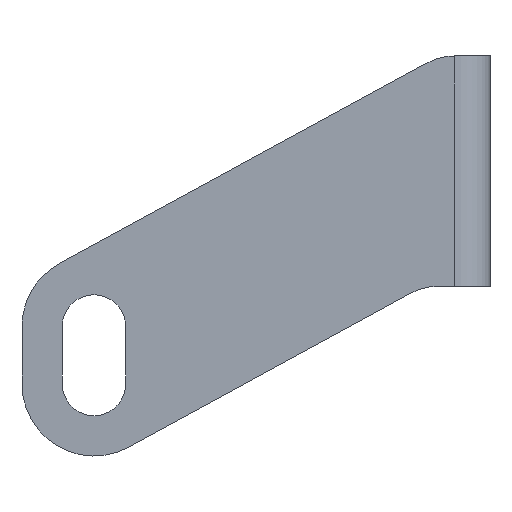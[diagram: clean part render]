
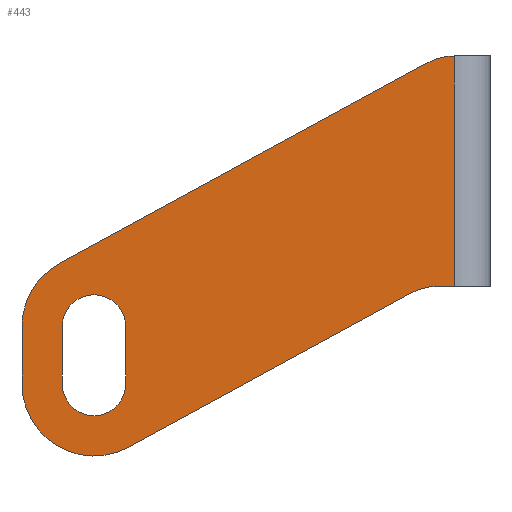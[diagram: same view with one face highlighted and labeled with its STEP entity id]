
A CAD part, front view. The second image highlights one B-rep face of the part: STEP entity #443.
In plain terms, the highlighted planar face has unit normal (0, -1, 0).
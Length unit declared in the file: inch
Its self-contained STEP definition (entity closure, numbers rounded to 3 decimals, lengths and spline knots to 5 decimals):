
#5 = DIRECTION ( 'NONE',  ( 0., 0., 1. ) ) ;
#6 = CARTESIAN_POINT ( 'NONE',  ( -1.72, -0.6875, -0.925 ) ) ;
#14 = VERTEX_POINT ( 'NONE', #626 ) ;
#23 = LINE ( 'NONE', #562, #561 ) ;
#28 = CIRCLE ( 'NONE', #775, 0.1378 ) ;
#30 = DIRECTION ( 'NONE',  ( 0., 0., 1. ) ) ;
#58 = EDGE_CURVE ( 'NONE', #645, #14, #154, .T. ) ;
#64 = CARTESIAN_POINT ( 'NONE',  ( -0.22472, -0.6875, -0.5 ) ) ;
#72 = CARTESIAN_POINT ( 'NONE',  ( -1.72, -0.6875, -0.675 ) ) ;
#78 = VECTOR ( 'NONE', #829, 39.37008 ) ;
#80 = CARTESIAN_POINT ( 'NONE',  ( -0.155, -0.6875, -0.5 ) ) ;
#86 = DIRECTION ( 'NONE',  ( 0., 0., -1. ) ) ;
#104 = EDGE_CURVE ( 'NONE', #334, #371, #127, .T. ) ;
#123 = EDGE_CURVE ( 'NONE', #616, #409, #360, .T. ) ;
#127 = CIRCLE ( 'NONE', #237, 0.25 ) ;
#137 = EDGE_CURVE ( 'NONE', #371, #264, #23, .T. ) ;
#141 = VECTOR ( 'NONE', #880, 39.37008 ) ;
#143 = AXIS2_PLACEMENT_3D ( 'NONE', #181, #392, #447 ) ;
#145 = FACE_BOUND ( 'NONE', #845, .T. ) ;
#154 = CIRCLE ( 'NONE', #859, 0.1378 ) ;
#157 = CARTESIAN_POINT ( 'NONE',  ( -0.22472, -0.6875, -0.75 ) ) ;
#167 = CARTESIAN_POINT ( 'NONE',  ( -1.72, -0.6875, -0.925 ) ) ;
#172 = DIRECTION ( 'NONE',  ( 0., 1., 0. ) ) ;
#181 = CARTESIAN_POINT ( 'NONE',  ( -1.72, -0.6875, -0.675 ) ) ;
#208 = AXIS2_PLACEMENT_3D ( 'NONE', #6, #213, #678 ) ;
#210 = CARTESIAN_POINT ( 'NONE',  ( -1.5822, -0.6875, -0.925 ) ) ;
#213 = DIRECTION ( 'NONE',  ( 0., 1., 0. ) ) ;
#229 = VERTEX_POINT ( 'NONE', #863 ) ;
#233 = VERTEX_POINT ( 'NONE', #868 ) ;
#234 = CARTESIAN_POINT ( 'NONE',  ( -1.72, -0.6875, -0.675 ) ) ;
#237 = AXIS2_PLACEMENT_3D ( 'NONE', #157, #311, #30 ) ;
#250 = ORIENTED_EDGE ( 'NONE', *, *, #137, .F. ) ;
#254 = CARTESIAN_POINT ( 'NONE',  ( -1.57034, -0.6875, -1.19933 ) ) ;
#256 = EDGE_CURVE ( 'NONE', #405, #645, #28, .T. ) ;
#264 = VERTEX_POINT ( 'NONE', #254 ) ;
#271 = ORIENTED_EDGE ( 'NONE', *, *, #104, .F. ) ;
#287 = EDGE_CURVE ( 'NONE', #463, #229, #688, .T. ) ;
#311 = DIRECTION ( 'NONE',  ( 0., -1., 0. ) ) ;
#327 = ORIENTED_EDGE ( 'NONE', *, *, #821, .T. ) ;
#334 = VERTEX_POINT ( 'NONE', #64 ) ;
#337 = CARTESIAN_POINT ( 'NONE',  ( -1.5822, -0.6875, -0.925 ) ) ;
#343 = DIRECTION ( 'NONE',  ( 0., 1., 0. ) ) ;
#347 = LINE ( 'NONE', #337, #807 ) ;
#349 = CIRCLE ( 'NONE', #451, 0.1378 ) ;
#357 = EDGE_CURVE ( 'NONE', #14, #619, #347, .T. ) ;
#359 = DIRECTION ( 'NONE',  ( 0., 0., 1. ) ) ;
#360 = LINE ( 'NONE', #565, #425 ) ;
#362 = EDGE_CURVE ( 'NONE', #600, #616, #499, .T. ) ;
#371 = VERTEX_POINT ( 'NONE', #812 ) ;
#392 = DIRECTION ( 'NONE',  ( 0., 1., 0. ) ) ;
#405 = VERTEX_POINT ( 'NONE', #740 ) ;
#406 = ORIENTED_EDGE ( 'NONE', *, *, #123, .F. ) ;
#409 = VERTEX_POINT ( 'NONE', #80 ) ;
#421 = VERTEX_POINT ( 'NONE', #617 ) ;
#422 = DIRECTION ( 'NONE',  ( 0., 0., 1. ) ) ;
#425 = VECTOR ( 'NONE', #634, 39.37008 ) ;
#440 = LINE ( 'NONE', #444, #817 ) ;
#442 = EDGE_LOOP ( 'NONE', ( #751, #735, #781, #706, #721, #250, #271, #540, #406 ) ) ;
#443 = ADVANCED_FACE ( 'NONE', ( #746, #145 ), #679, .F. ) ;
#444 = CARTESIAN_POINT ( 'NONE',  ( -1.8578, -0.6875, -0.925 ) ) ;
#447 = DIRECTION ( 'NONE',  ( 0., 0., 1. ) ) ;
#451 = AXIS2_PLACEMENT_3D ( 'NONE', #167, #172, #496 ) ;
#457 = CARTESIAN_POINT ( 'NONE',  ( -1.72, -0.6875, -0.675 ) ) ;
#463 = VERTEX_POINT ( 'NONE', #759 ) ;
#477 = CARTESIAN_POINT ( 'NONE',  ( -0.155, -0.6875, 0.5 ) ) ;
#481 = DIRECTION ( 'NONE',  ( 0., 1., 0. ) ) ;
#482 = CARTESIAN_POINT ( 'NONE',  ( -1.72, -0.6875, -0.5372 ) ) ;
#496 = DIRECTION ( 'NONE',  ( 0., 0., -1. ) ) ;
#499 = CIRCLE ( 'NONE', #745, 0.25 ) ;
#501 = CARTESIAN_POINT ( 'NONE',  ( -1.86966, -0.6875, -0.40067 ) ) ;
#507 = DIRECTION ( 'NONE',  ( 0., 0., 1. ) ) ;
#535 = DIRECTION ( 'NONE',  ( 0., 1., 0. ) ) ;
#540 = ORIENTED_EDGE ( 'NONE', *, *, #633, .F. ) ;
#561 = VECTOR ( 'NONE', #835, 39.37008 ) ;
#562 = CARTESIAN_POINT ( 'NONE',  ( -1.57034, -0.6875, -1.19933 ) ) ;
#565 = CARTESIAN_POINT ( 'NONE',  ( -0.155, -0.6875, -0.675 ) ) ;
#568 = DIRECTION ( 'NONE',  ( 0., 1., 0. ) ) ;
#575 = ORIENTED_EDGE ( 'NONE', *, *, #357, .T. ) ;
#600 = VERTEX_POINT ( 'NONE', #720 ) ;
#614 = LINE ( 'NONE', #815, #141 ) ;
#616 = VERTEX_POINT ( 'NONE', #477 ) ;
#617 = CARTESIAN_POINT ( 'NONE',  ( -1.8578, -0.6875, -0.925 ) ) ;
#619 = VERTEX_POINT ( 'NONE', #210 ) ;
#626 = CARTESIAN_POINT ( 'NONE',  ( -1.5822, -0.6875, -0.675 ) ) ;
#633 = EDGE_CURVE ( 'NONE', #409, #334, #614, .T. ) ;
#634 = DIRECTION ( 'NONE',  ( 0., 0., -1. ) ) ;
#636 = LINE ( 'NONE', #501, #78 ) ;
#644 = EDGE_CURVE ( 'NONE', #264, #233, #685, .T. ) ;
#645 = VERTEX_POINT ( 'NONE', #482 ) ;
#677 = DIRECTION ( 'NONE',  ( 0., 0., -1. ) ) ;
#678 = DIRECTION ( 'NONE',  ( 0., 0., -1. ) ) ;
#679 = PLANE ( 'NONE',  #772 ) ;
#685 = CIRCLE ( 'NONE', #208, 0.3125 ) ;
#688 = CIRCLE ( 'NONE', #143, 0.3125 ) ;
#695 = LINE ( 'NONE', #779, #832 ) ;
#706 = ORIENTED_EDGE ( 'NONE', *, *, #778, .F. ) ;
#717 = ORIENTED_EDGE ( 'NONE', *, *, #58, .T. ) ;
#720 = CARTESIAN_POINT ( 'NONE',  ( -0.27473, -0.6875, 0.46946 ) ) ;
#721 = ORIENTED_EDGE ( 'NONE', *, *, #644, .F. ) ;
#724 = DIRECTION ( 'NONE',  ( 0., 0., -1. ) ) ;
#732 = ORIENTED_EDGE ( 'NONE', *, *, #256, .T. ) ;
#735 = ORIENTED_EDGE ( 'NONE', *, *, #808, .F. ) ;
#740 = CARTESIAN_POINT ( 'NONE',  ( -1.8578, -0.6875, -0.675 ) ) ;
#745 = AXIS2_PLACEMENT_3D ( 'NONE', #879, #481, #422 ) ;
#746 = FACE_OUTER_BOUND ( 'NONE', #442, .T. ) ;
#751 = ORIENTED_EDGE ( 'NONE', *, *, #362, .F. ) ;
#759 = CARTESIAN_POINT ( 'NONE',  ( -2.0325, -0.6875, -0.675 ) ) ;
#772 = AXIS2_PLACEMENT_3D ( 'NONE', #72, #343, #5 ) ;
#775 = AXIS2_PLACEMENT_3D ( 'NONE', #457, #535, #724 ) ;
#778 = EDGE_CURVE ( 'NONE', #233, #463, #695, .T. ) ;
#779 = CARTESIAN_POINT ( 'NONE',  ( -2.0325, -0.6875, -0.675 ) ) ;
#781 = ORIENTED_EDGE ( 'NONE', *, *, #287, .F. ) ;
#807 = VECTOR ( 'NONE', #677, 39.37008 ) ;
#808 = EDGE_CURVE ( 'NONE', #229, #600, #636, .T. ) ;
#812 = CARTESIAN_POINT ( 'NONE',  ( -0.34445, -0.6875, -0.53054 ) ) ;
#815 = CARTESIAN_POINT ( 'NONE',  ( -0.22472, -0.6875, -0.5 ) ) ;
#817 = VECTOR ( 'NONE', #507, 39.37008 ) ;
#821 = EDGE_CURVE ( 'NONE', #619, #421, #349, .T. ) ;
#829 = DIRECTION ( 'NONE',  ( 0.878, 0., 0.479 ) ) ;
#832 = VECTOR ( 'NONE', #359, 39.37008 ) ;
#835 = DIRECTION ( 'NONE',  ( -0.878, 0., -0.479 ) ) ;
#845 = EDGE_LOOP ( 'NONE', ( #327, #862, #732, #717, #575 ) ) ;
#858 = EDGE_CURVE ( 'NONE', #421, #405, #440, .T. ) ;
#859 = AXIS2_PLACEMENT_3D ( 'NONE', #234, #568, #86 ) ;
#862 = ORIENTED_EDGE ( 'NONE', *, *, #858, .T. ) ;
#863 = CARTESIAN_POINT ( 'NONE',  ( -1.86966, -0.6875, -0.40067 ) ) ;
#868 = CARTESIAN_POINT ( 'NONE',  ( -2.0325, -0.6875, -0.925 ) ) ;
#879 = CARTESIAN_POINT ( 'NONE',  ( -0.155, -0.6875, 0.25 ) ) ;
#880 = DIRECTION ( 'NONE',  ( -1., 0., 0. ) ) ;
